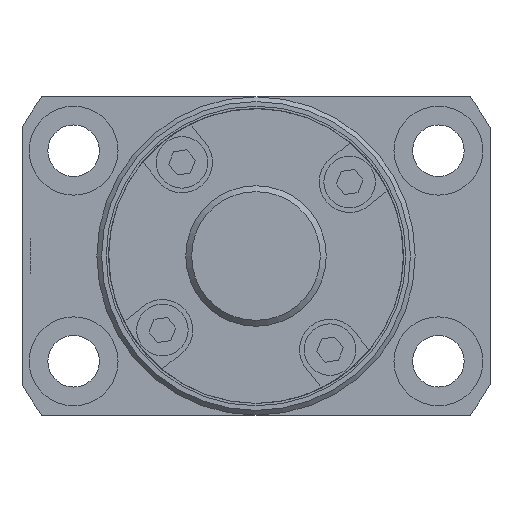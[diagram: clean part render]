
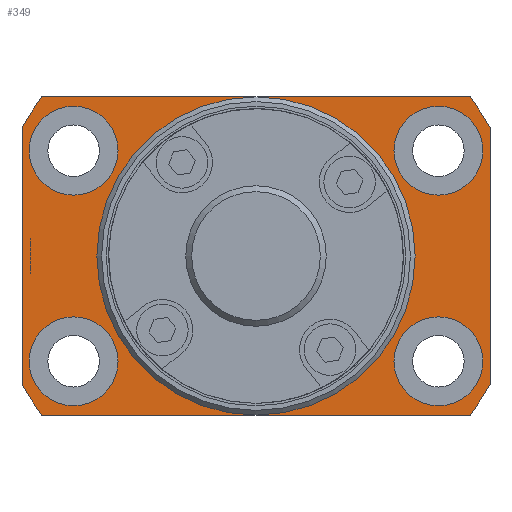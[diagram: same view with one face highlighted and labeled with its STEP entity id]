
A CAD part, left-side view. The second image highlights one B-rep face of the part: STEP entity #349.
In plain terms, the highlighted planar face has unit normal (-1, 0, 0).
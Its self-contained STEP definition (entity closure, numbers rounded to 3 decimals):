
#349 = ADVANCED_FACE( '', ( #721, #722, #723, #724, #725, #726 ), #727, .F. );
#721 = FACE_OUTER_BOUND( '', #1083, .T. );
#722 = FACE_BOUND( '', #1084, .T. );
#723 = FACE_BOUND( '', #1085, .T. );
#724 = FACE_BOUND( '', #1086, .T. );
#725 = FACE_BOUND( '', #1087, .T. );
#726 = FACE_BOUND( '', #1088, .T. );
#727 = PLANE( '', #1089 );
#1083 = EDGE_LOOP( '', ( #1832, #1833, #1834, #1835, #1836, #1837, #1838, #1839 ) );
#1084 = EDGE_LOOP( '', ( #1840 ) );
#1085 = EDGE_LOOP( '', ( #1841 ) );
#1086 = EDGE_LOOP( '', ( #1842 ) );
#1087 = EDGE_LOOP( '', ( #1843 ) );
#1088 = EDGE_LOOP( '', ( #1844 ) );
#1089 = AXIS2_PLACEMENT_3D( '', #1845, #1846, #1847 );
#1832 = ORIENTED_EDGE( '', *, *, #2138, .F. );
#1833 = ORIENTED_EDGE( '', *, *, #2086, .F. );
#1834 = ORIENTED_EDGE( '', *, *, #2109, .F. );
#1835 = ORIENTED_EDGE( '', *, *, #1971, .F. );
#1836 = ORIENTED_EDGE( '', *, *, #1912, .F. );
#1837 = ORIENTED_EDGE( '', *, *, #1975, .F. );
#1838 = ORIENTED_EDGE( '', *, *, #2115, .F. );
#1839 = ORIENTED_EDGE( '', *, *, #2154, .F. );
#1840 = ORIENTED_EDGE( '', *, *, #2159, .T. );
#1841 = ORIENTED_EDGE( '', *, *, #2072, .T. );
#1842 = ORIENTED_EDGE( '', *, *, #2152, .T. );
#1843 = ORIENTED_EDGE( '', *, *, #2148, .T. );
#1844 = ORIENTED_EDGE( '', *, *, #2044, .T. );
#1845 = CARTESIAN_POINT( '', ( 21., 16.5, 0. ) );
#1846 = DIRECTION( '', ( 1., 0., 0. ) );
#1847 = DIRECTION( '', ( 0., 0., -1. ) );
#1912 = EDGE_CURVE( '', #2226, #2227, #2228, .T. );
#1971 = EDGE_CURVE( '', #2227, #2326, #2327, .T. );
#1975 = EDGE_CURVE( '', #2332, #2226, #2333, .T. );
#2044 = EDGE_CURVE( '', #2432, #2432, #2433, .T. );
#2072 = EDGE_CURVE( '', #2472, #2472, #2473, .T. );
#2086 = EDGE_CURVE( '', #2492, #2493, #2494, .T. );
#2109 = EDGE_CURVE( '', #2326, #2492, #2525, .T. );
#2115 = EDGE_CURVE( '', #2531, #2332, #2532, .T. );
#2138 = EDGE_CURVE( '', #2493, #2564, #2565, .T. );
#2148 = EDGE_CURVE( '', #2576, #2576, #2577, .T. );
#2152 = EDGE_CURVE( '', #2581, #2581, #2582, .T. );
#2154 = EDGE_CURVE( '', #2564, #2531, #2584, .T. );
#2159 = EDGE_CURVE( '', #2589, #2589, #2590, .T. );
#2226 = VERTEX_POINT( '', #2679 );
#2227 = VERTEX_POINT( '', #2680 );
#2228 = CIRCLE( '', #2681, 28.5 );
#2326 = VERTEX_POINT( '', #2811 );
#2327 = LINE( '', #2812, #2813 );
#2332 = VERTEX_POINT( '', #2820 );
#2333 = LINE( '', #2821, #2822 );
#2432 = VERTEX_POINT( '', #2958 );
#2433 = CIRCLE( '', #2959, 16.5 );
#2472 = VERTEX_POINT( '', #3007 );
#2473 = CIRCLE( '', #3008, 4.75 );
#2492 = VERTEX_POINT( '', #3062 );
#2493 = VERTEX_POINT( '', #3063 );
#2494 = LINE( '', #3064, #3065 );
#2525 = CIRCLE( '', #3102, 28.5 );
#2531 = VERTEX_POINT( '', #3108 );
#2532 = CIRCLE( '', #3109, 28.5 );
#2564 = VERTEX_POINT( '', #3145 );
#2565 = CIRCLE( '', #3146, 28.5 );
#2576 = VERTEX_POINT( '', #3159 );
#2577 = CIRCLE( '', #3160, 4.75 );
#2581 = VERTEX_POINT( '', #3164 );
#2582 = CIRCLE( '', #3165, 4.75 );
#2584 = LINE( '', #3167, #3168 );
#2589 = VERTEX_POINT( '', #3173 );
#2590 = CIRCLE( '', #3174, 4.75 );
#2679 = CARTESIAN_POINT( '', ( 21., -25., -13.684 ) );
#2680 = CARTESIAN_POINT( '', ( 21., -22.875, -17. ) );
#2681 = AXIS2_PLACEMENT_3D( '', #3218, #3219, #3220 );
#2811 = CARTESIAN_POINT( '', ( 21., 22.875, -17. ) );
#2812 = CARTESIAN_POINT( '', ( 21., -22.875, -17. ) );
#2813 = VECTOR( '', #3295, 1000. );
#2820 = CARTESIAN_POINT( '', ( 21., -25., 13.684 ) );
#2821 = CARTESIAN_POINT( '', ( 21., -25., 13.684 ) );
#2822 = VECTOR( '', #3298, 1000. );
#2958 = CARTESIAN_POINT( '', ( 21., 0., -16.5 ) );
#2959 = AXIS2_PLACEMENT_3D( '', #3369, #3370, #3371 );
#3007 = CARTESIAN_POINT( '', ( 21., -19.486, 6.5 ) );
#3008 = AXIS2_PLACEMENT_3D( '', #3405, #3406, #3407 );
#3062 = CARTESIAN_POINT( '', ( 21., 25., -13.684 ) );
#3063 = CARTESIAN_POINT( '', ( 21., 25., 13.684 ) );
#3064 = CARTESIAN_POINT( '', ( 21., 25., -13.684 ) );
#3065 = VECTOR( '', #3422, 1000. );
#3102 = AXIS2_PLACEMENT_3D( '', #3450, #3451, #3452 );
#3108 = CARTESIAN_POINT( '', ( 21., -22.875, 17. ) );
#3109 = AXIS2_PLACEMENT_3D( '', #3456, #3457, #3458 );
#3145 = CARTESIAN_POINT( '', ( 21., 22.875, 17. ) );
#3146 = AXIS2_PLACEMENT_3D( '', #3490, #3491, #3492 );
#3159 = CARTESIAN_POINT( '', ( 21., 19.486, 6.5 ) );
#3160 = AXIS2_PLACEMENT_3D( '', #3498, #3499, #3500 );
#3164 = CARTESIAN_POINT( '', ( 21., 19.486, -16. ) );
#3165 = AXIS2_PLACEMENT_3D( '', #3501, #3502, #3503 );
#3167 = CARTESIAN_POINT( '', ( 21., 22.875, 17. ) );
#3168 = VECTOR( '', #3504, 1000. );
#3173 = CARTESIAN_POINT( '', ( 21., -19.486, -16. ) );
#3174 = AXIS2_PLACEMENT_3D( '', #3505, #3506, #3507 );
#3218 = CARTESIAN_POINT( '', ( 21., 0., 0. ) );
#3219 = DIRECTION( '', ( 1., 0., 0. ) );
#3220 = DIRECTION( '', ( 0., 0., -1. ) );
#3295 = DIRECTION( '', ( 0., 1., 0. ) );
#3298 = DIRECTION( '', ( 0., 0., -1. ) );
#3369 = CARTESIAN_POINT( '', ( 21., 0., 0. ) );
#3370 = DIRECTION( '', ( 1., 0., 0. ) );
#3371 = DIRECTION( '', ( 0., 0., -1. ) );
#3405 = CARTESIAN_POINT( '', ( 21., -19.486, 11.25 ) );
#3406 = DIRECTION( '', ( 1., 0., 0. ) );
#3407 = DIRECTION( '', ( 0., 0., -1. ) );
#3422 = DIRECTION( '', ( 0., 0., 1. ) );
#3450 = CARTESIAN_POINT( '', ( 21., 0., 0. ) );
#3451 = DIRECTION( '', ( 1., 0., 0. ) );
#3452 = DIRECTION( '', ( 0., 0., -1. ) );
#3456 = CARTESIAN_POINT( '', ( 21., 0., 0. ) );
#3457 = DIRECTION( '', ( 1., 0., 0. ) );
#3458 = DIRECTION( '', ( 0., 0., -1. ) );
#3490 = CARTESIAN_POINT( '', ( 21., 0., 0. ) );
#3491 = DIRECTION( '', ( 1., 0., 0. ) );
#3492 = DIRECTION( '', ( 0., 0., -1. ) );
#3498 = CARTESIAN_POINT( '', ( 21., 19.486, 11.25 ) );
#3499 = DIRECTION( '', ( 1., 0., 0. ) );
#3500 = DIRECTION( '', ( 0., 0., -1. ) );
#3501 = CARTESIAN_POINT( '', ( 21., 19.486, -11.25 ) );
#3502 = DIRECTION( '', ( 1., 0., 0. ) );
#3503 = DIRECTION( '', ( 0., 0., -1. ) );
#3504 = DIRECTION( '', ( 0., -1., 0. ) );
#3505 = CARTESIAN_POINT( '', ( 21., -19.486, -11.25 ) );
#3506 = DIRECTION( '', ( 1., 0., 0. ) );
#3507 = DIRECTION( '', ( 0., 0., -1. ) );
